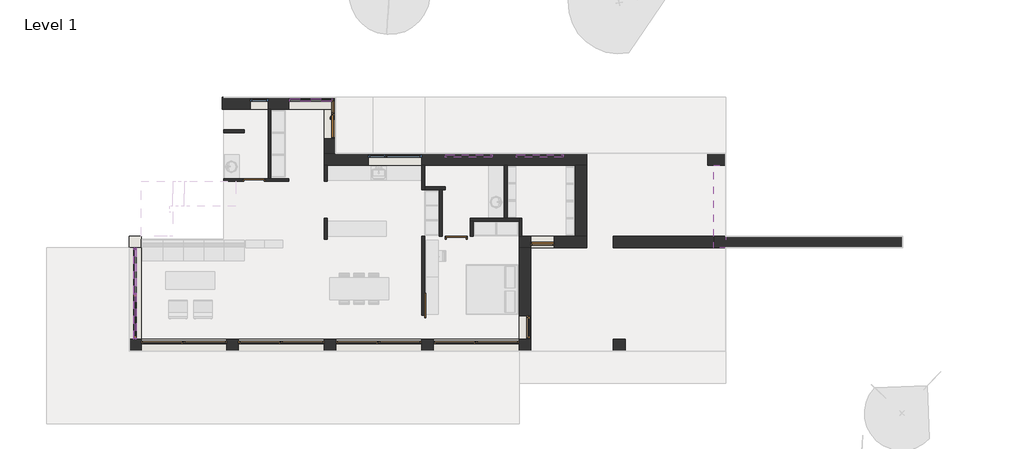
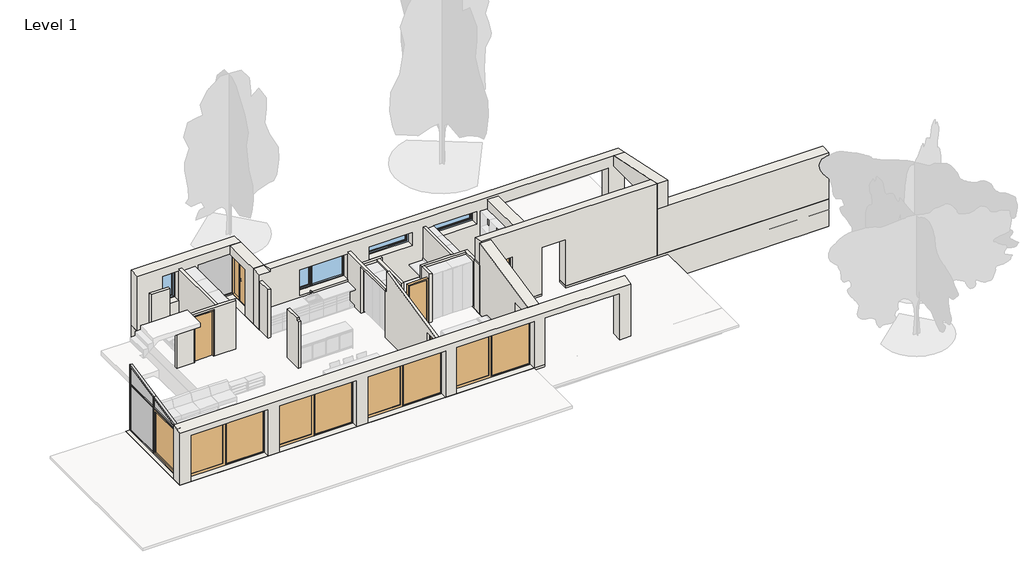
# One storey, part 1 of 2: 31 walls, 16 members, 11 doors, 5 plates, 4 windows.
"""IFC4 building model written with IfcOpenShell, lengths in millimetres."""

from ifc_helpers import new_model, si_unit, frame, origin, origin_with_axes, place, context, project, spatial, polyline, outline, extrude, faceted_brep, transform, mapped, element, save
from components import door_1560x2200_mm_08e78651, cw_ext_sliding_door_glass_cw_ext_sliding_door_glass_fc66a621, ext_single_flush_960x2200_mm_918893a4, ext_single_flush_out_glass_960x2200_mm_15830432, ext_sliding_door_window_assembly_glass_3480x2200_mm_6c81b4e4, int_single_flush_900x2200_mm_58b118df, int_single_flush_900x2200_mm_8e8544e1, int_sliding_door_on_wall_m9_x22_8b50374d, rectangular_mullion_exterior_115x115mm_a364345c, rectangular_mullion_exterior_50x115mm_2cea3e43, rectangular_mullion_exterior_50x115mm_d26d7a7f, rectangular_mullion_exterior_50x115mm_66d0e140, rectangular_mullion_exterior_50x115mm_0bbc0ca7, rectangular_mullion_exterior_50x115mm_4f10aaa5, rectangular_mullion_exterior_50x115mm_637f70d5, rectangular_mullion_exterior_50x115mm_56454b0a, rectangular_mullion_exterior_50x115mm_14035550, rectangular_mullion_exterior_50x115mm_69c7e964, rectangular_mullion_exterior_50x115mm_8fb64012, empty_system_panel_empty_d53b2e3b, system_panel_exterior_glass_22mm_2c8f2951, system_panel_exterior_glass_22mm_213b490c, system_panel_exterior_glass_22mm_7220da71, system_panel_exterior_glass_22mm_7fe7f60a, single_light_720x1400_mm_b30d6d94, single_light_top_hung_1920x600_mm_50622a2d, window_assembly_individual_2160x1200_mm_64654f8e

model = new_model("IFC4")

# Units and contexts
model_context = context("Model", 3, world=origin())
ifc_project = project(units=[si_unit("LENGTHUNIT", "METRE", prefix="MILLI")], contexts=[model_context])

# Site, building, storey
site = spatial("IfcSite", under=ifc_project)
building = spatial("IfcBuilding", under=site)
storey = spatial("IfcBuildingStorey", under=building, Name="Level 1", Elevation=0.0)

# Doors
placement = place(None, origin())
door_1560x2200_mm_shape = door_1560x2200_mm_08e78651(model_context)
element("IfcDoor", 1, ObjectType="Ext. Door inw. Window Assembly : 1560x2200 mm", at=placement, inside=storey, context=model_context, shape_type="MappedRepresentation", body=[
    mapped(door_1560x2200_mm_shape, transform((12120.0, 9060.0, 0.0), x_axis=(0.0, -1.0, 0.0), y_axis=(1.0, 0.0, 0.0), z_axis=(0.0, 0.0, 1.0))),
])
cw_ext_sliding_door_glass_cw_ext_sliding_door_glass_shape = cw_ext_sliding_door_glass_cw_ext_sliding_door_glass_fc66a621(model_context)
element("IfcDoor", 2, ObjectType="CW Ext. Sliding Door - Glass : CW Ext. Sliding Door - Glass", at=placement, inside=storey, context=model_context, shape_type="MappedRepresentation", body=[
    mapped(cw_ext_sliding_door_glass_cw_ext_sliding_door_glass_shape, transform((4140.0, 1062.5, 50.0), x_axis=(0.0, 1.0, 0.0), y_axis=(-1.0, 0.0, 0.0), z_axis=(0.0, 0.0, 1.0))),
])
ext_single_flush_960x2200_mm_shape = ext_single_flush_960x2200_mm_918893a4(model_context)
element("IfcDoor", 3, ObjectType="Ext. Single-Flush : 960x2200 mm", at=placement, inside=storey, context=model_context, shape_type="MappedRepresentation", body=[
    mapped(ext_single_flush_960x2200_mm_shape, transform((20760.0, 4080.0, 0.0), x_axis=(-1.0, 0.0, 0.0), y_axis=(0.0, -1.0, 0.0), z_axis=(0.0, 0.0, 1.0))),
])
ext_single_flush_out_glass_960x2200_mm_shape = ext_single_flush_out_glass_960x2200_mm_15830432(model_context)
element("IfcDoor", 4, ObjectType="Ext. Single-Flush out - Glass : 960x2200 mm", at=placement, inside=storey, context=model_context, shape_type="MappedRepresentation", body=[
    mapped(ext_single_flush_out_glass_960x2200_mm_shape, transform((20040.0, 600.0, 0.0), x_axis=(0.0, -1.0, 0.0), y_axis=(1.0, 0.0, 0.0), z_axis=(0.0, 0.0, 1.0))),
])
ext_sliding_door_window_assembly_glass_3480x2200_mm_shape = ext_sliding_door_window_assembly_glass_3480x2200_mm_6c81b4e4(model_context)
element("IfcDoor", 5, ObjectType="Ext. Sliding Door Window Assembly - Glass : 3480x2200 mm", at=placement, inside=storey, context=model_context, shape_type="MappedRepresentation", body=[
    mapped(ext_sliding_door_window_assembly_glass_3480x2200_mm_shape, transform((10140.0, -120.0, 0.0), x_axis=(-1.0, 0.0, 0.0), y_axis=(0.0, -1.0, 0.0), z_axis=(0.0, 0.0, 1.0))),
])
element("IfcDoor", 6, ObjectType="Ext. Sliding Door Window Assembly - Glass : 3480x2200 mm", at=placement, inside=storey, context=model_context, shape_type="MappedRepresentation", body=[
    mapped(ext_sliding_door_window_assembly_glass_3480x2200_mm_shape, transform((6180.0, -120.0, 0.0), x_axis=(-1.0, 0.0, 0.0), y_axis=(0.0, -1.0, 0.0), z_axis=(0.0, 0.0, 1.0))),
])
element("IfcDoor", 7, ObjectType="Ext. Sliding Door Window Assembly - Glass : 3480x2200 mm", at=placement, inside=storey, context=model_context, shape_type="MappedRepresentation", body=[
    mapped(ext_sliding_door_window_assembly_glass_3480x2200_mm_shape, transform((14100.0, -120.0, 0.0), x_axis=(-1.0, 0.0, 0.0), y_axis=(0.0, -1.0, 0.0), z_axis=(0.0, 0.0, 1.0))),
])
element("IfcDoor", 8, ObjectType="Ext. Sliding Door Window Assembly - Glass : 3480x2200 mm", at=placement, inside=storey, context=model_context, shape_type="MappedRepresentation", body=[
    mapped(ext_sliding_door_window_assembly_glass_3480x2200_mm_shape, transform((18060.0, -120.0, 0.0), x_axis=(-1.0, 0.0, 0.0), y_axis=(0.0, -1.0, 0.0), z_axis=(0.0, 0.0, 1.0))),
])
int_single_flush_900x2200_mm_shape = int_single_flush_900x2200_mm_58b118df(model_context)
element("IfcDoor", 9, ObjectType="Int. Single-Flush : 900x2200 mm", at=placement, inside=storey, context=model_context, shape_type="MappedRepresentation", body=[
    mapped(int_single_flush_900x2200_mm_shape, transform((9030.0, 6600.0, 0.0), x_axis=(1.0, 0.0, 0.0), y_axis=(0.0, 1.0, 0.0), z_axis=(0.0, 0.0, 1.0))),
])
int_single_flush_900x2200_mm_2_shape = int_single_flush_900x2200_mm_8e8544e1(model_context)
element("IfcDoor", 10, ObjectType="Int. Single-Flush : 900x2200 mm", at=placement, inside=storey, context=model_context, shape_type="MappedRepresentation", body=[
    mapped(int_single_flush_900x2200_mm_2_shape, transform((17250.0, 4260.0, 0.0), x_axis=(-1.0, 0.0, 0.0), y_axis=(0.0, -1.0, 0.0), z_axis=(0.0, 0.0, 1.0))),
])
int_sliding_door_on_wall_m9_x22_shape = int_sliding_door_on_wall_m9_x22_8b50374d(model_context)
element("IfcDoor", 11, ObjectType="Int. Sliding Door on wall : M9 x22", at=placement, inside=storey, context=model_context, shape_type="MappedRepresentation", body=[
    mapped(int_sliding_door_on_wall_m9_x22_shape, transform((15850.0, 624.0, 0.0), x_axis=(0.0, -1.0, 0.0), y_axis=(1.0, 0.0, 0.0), z_axis=(0.0, 0.0, 1.0))),
])

# Members
rectangular_mullion_exterior_115x115mm_shape = rectangular_mullion_exterior_115x115mm_a364345c(model_context)
element("IfcMember", 12, ObjectType="Rectangular Mullion : Exterior - 115x115mm", at=placement, inside=storey, context=model_context, shape_type="MappedRepresentation", body=[
    mapped(rectangular_mullion_exterior_115x115mm_shape, transform((12252.5, 9910.0, 0.0), x_axis=(1.0, 0.0, 0.0), y_axis=(0.0, -1.0, 0.0), z_axis=(0.0, 0.0, -1.0))),
])
rectangular_mullion_exterior_50x115mm_shape = rectangular_mullion_exterior_50x115mm_2cea3e43(model_context)
element("IfcMember", 13, ObjectType="Rectangular Mullion : Exterior - 50x115mm", at=placement, inside=storey, context=model_context, shape_type="MappedRepresentation", body=[
    mapped(rectangular_mullion_exterior_50x115mm_shape, transform((4140.0, 3840.0, 0.0), x_axis=(0.0, 1.0, 0.0), y_axis=(1.0, 0.0, 0.0), z_axis=(0.0, 0.0, -1.0))),
])
element("IfcMember", 14, ObjectType="Rectangular Mullion : Exterior - 50x115mm", at=placement, inside=storey, context=model_context, shape_type="MappedRepresentation", body=[
    mapped(rectangular_mullion_exterior_50x115mm_shape, transform((4140.0, 120.0, 2200.0), x_axis=(0.0, -1.0, 0.0), y_axis=(1.0, 0.0, 0.0), z_axis=(0.0, 0.0, 1.0))),
])
rectangular_mullion_exterior_50x115mm_2_shape = rectangular_mullion_exterior_50x115mm_d26d7a7f(model_context)
element("IfcMember", 15, ObjectType="Rectangular Mullion : Exterior - 50x115mm", at=placement, inside=storey, context=model_context, shape_type="MappedRepresentation", body=[
    mapped(rectangular_mullion_exterior_50x115mm_2_shape, transform((4140.0, 1980.0, 50.0), x_axis=(0.0, 1.0, 0.0), y_axis=(1.0, 0.0, 0.0), z_axis=(0.0, 0.0, -1.0))),
])
element("IfcMember", 16, ObjectType="Rectangular Mullion : Exterior - 50x115mm", at=placement, inside=storey, context=model_context, shape_type="MappedRepresentation", body=[
    mapped(rectangular_mullion_exterior_50x115mm_shape, transform((10440.0, 9910.0, 2200.0), x_axis=(-1.0, 0.0, 0.0), y_axis=(0.0, -1.0, 0.0), z_axis=(0.0, 0.0, 1.0))),
])
rectangular_mullion_exterior_50x115mm_3_shape = rectangular_mullion_exterior_50x115mm_66d0e140(model_context)
element("IfcMember", 17, ObjectType="Rectangular Mullion : Exterior - 50x115mm", at=placement, inside=storey, context=model_context, shape_type="MappedRepresentation", body=[
    mapped(rectangular_mullion_exterior_50x115mm_3_shape, transform((12195.0, 9910.0, 2200.0), x_axis=(0.0, 0.0, 1.0), y_axis=(0.0, -1.0, 0.0), z_axis=(1.0, 0.0, 0.0))),
])
element("IfcMember", 18, ObjectType="Rectangular Mullion : Exterior - 50x115mm", at=placement, inside=storey, context=model_context, shape_type="MappedRepresentation", body=[
    mapped(rectangular_mullion_exterior_50x115mm_3_shape, transform((10490.0, 9910.0, 0.0), x_axis=(0.0, 0.0, -1.0), y_axis=(0.0, -1.0, 0.0), z_axis=(-1.0, 0.0, 0.0))),
])
rectangular_mullion_exterior_50x115mm_4_shape = rectangular_mullion_exterior_50x115mm_0bbc0ca7(model_context)
element("IfcMember", 19, ObjectType="Rectangular Mullion : Exterior - 50x115mm", at=placement, inside=storey, context=model_context, shape_type="MappedRepresentation", body=[
    mapped(rectangular_mullion_exterior_50x115mm_4_shape, transform((4140.0, 1980.0, 0.0), x_axis=(0.0, 0.0, -1.0), y_axis=(1.0, 0.0, 0.0), z_axis=(0.0, -1.0, 0.0))),
])
element("IfcMember", 20, ObjectType="Rectangular Mullion : Exterior - 50x115mm", at=placement, inside=storey, context=model_context, shape_type="MappedRepresentation", body=[
    mapped(rectangular_mullion_exterior_50x115mm_4_shape, transform((4140.0, 170.0, 0.0), x_axis=(0.0, 0.0, -1.0), y_axis=(1.0, 0.0, 0.0), z_axis=(0.0, -1.0, 0.0))),
])
rectangular_mullion_exterior_50x115mm_5_shape = rectangular_mullion_exterior_50x115mm_4f10aaa5(model_context)
element("IfcMember", 21, ObjectType="Rectangular Mullion : Exterior - 50x115mm", at=placement, inside=storey, context=model_context, shape_type="MappedRepresentation", body=[
    mapped(rectangular_mullion_exterior_50x115mm_5_shape, transform((4140.0, 1955.0, 2200.0), x_axis=(0.0, 0.0, 1.0), y_axis=(1.0, 0.0, 0.0), z_axis=(0.0, 1.0, 0.0))),
])
element("IfcMember", 22, ObjectType="Rectangular Mullion : Exterior - 50x115mm", at=placement, inside=storey, context=model_context, shape_type="MappedRepresentation", body=[
    mapped(rectangular_mullion_exterior_50x115mm_5_shape, transform((4140.0, 3790.0, 2200.0), x_axis=(0.0, 0.0, 1.0), y_axis=(1.0, 0.0, 0.0), z_axis=(0.0, 1.0, 0.0))),
])
rectangular_mullion_exterior_50x115mm_6_shape = rectangular_mullion_exterior_50x115mm_637f70d5(model_context)
element("IfcMember", 23, ObjectType="Rectangular Mullion : Exterior - 50x115mm", at=placement, inside=storey, context=model_context, shape_type="MappedRepresentation", body=[
    mapped(rectangular_mullion_exterior_50x115mm_6_shape, transform((4140.0, 1980.0, 2200.0), x_axis=(0.0, 1.0, 0.0), y_axis=(1.0, 0.0, 0.0), z_axis=(0.0, 0.0, -1.0))),
])
rectangular_mullion_exterior_50x115mm_7_shape = rectangular_mullion_exterior_50x115mm_56454b0a(model_context)
element("IfcMember", 24, ObjectType="Rectangular Mullion : Exterior - 50x115mm", at=placement, inside=storey, context=model_context, shape_type="MappedRepresentation", body=[
    mapped(rectangular_mullion_exterior_50x115mm_7_shape, transform((4140.0, 1980.0, 2711.8424549), x_axis=(0.0, -0.20791169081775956, 0.9781476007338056), y_axis=(1.0, 0.0, 0.0), z_axis=(0.0, 0.9781476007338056, 0.20791169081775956))),
])
rectangular_mullion_exterior_50x115mm_8_shape = rectangular_mullion_exterior_50x115mm_14035550(model_context)
element("IfcMember", 25, ObjectType="Rectangular Mullion : Exterior - 50x115mm", at=placement, inside=storey, context=model_context, shape_type="MappedRepresentation", body=[
    mapped(rectangular_mullion_exterior_50x115mm_8_shape, transform((4140.0, 3840.0, 3107.1976596), x_axis=(0.0, -0.2079116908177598, 0.9781476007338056), y_axis=(1.0, 0.0, 0.0), z_axis=(0.0, 0.9781476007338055, 0.20791169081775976))),
])
rectangular_mullion_exterior_50x115mm_9_shape = rectangular_mullion_exterior_50x115mm_69c7e964(model_context)
element("IfcMember", 26, ObjectType="Rectangular Mullion : Exterior - 50x115mm", at=placement, inside=storey, context=model_context, shape_type="MappedRepresentation", body=[
    mapped(rectangular_mullion_exterior_50x115mm_9_shape, transform((4140.0, 120.0, 2316.4872502), x_axis=(0.0, -1.0, 0.0), y_axis=(1.0, 0.0, 0.0), z_axis=(0.0, 0.0, 1.0))),
])
rectangular_mullion_exterior_50x115mm_10_shape = rectangular_mullion_exterior_50x115mm_8fb64012(model_context)
element("IfcMember", 27, ObjectType="Rectangular Mullion : Exterior - 50x115mm", at=placement, inside=storey, context=model_context, shape_type="MappedRepresentation", body=[
    mapped(rectangular_mullion_exterior_50x115mm_10_shape, transform((4140.0, 3840.0, 2200.0), x_axis=(0.0, 1.0, 0.0), y_axis=(1.0, 0.0, 0.0), z_axis=(0.0, 0.0, -1.0))),
])

# Plates
empty_system_panel_empty_shape = empty_system_panel_empty_d53b2e3b(model_context)
element("IfcPlate", 28, ObjectType="Empty System Panel : Empty", at=placement, inside=storey, context=model_context, shape_type="MappedRepresentation", body=[
    mapped(empty_system_panel_empty_shape, transform((12335.0, 9910.0, 0.0), x_axis=(1.0, 0.0, 0.0), y_axis=(0.0, 1.0, 0.0), z_axis=(0.0, 0.0, 1.0))),
])
system_panel_exterior_glass_22mm_shape = system_panel_exterior_glass_22mm_2c8f2951(model_context)
element("IfcPlate", 29, ObjectType="System Panel : Exterior - Glass 22mm", at=placement, inside=storey, context=model_context, shape_type="MappedRepresentation", body=[
    mapped(system_panel_exterior_glass_22mm_shape, transform((11342.5, 9910.0, 50.0), x_axis=(1.0, 0.0, 0.0), y_axis=(0.0, 1.0, 0.0), z_axis=(0.0, 0.0, 1.0))),
])
system_panel_exterior_glass_22mm_2_shape = system_panel_exterior_glass_22mm_213b490c(model_context)
element("IfcPlate", 30, ObjectType="System Panel : Exterior - Glass 22mm", at=placement, inside=storey, context=model_context, shape_type="MappedRepresentation", body=[
    mapped(system_panel_exterior_glass_22mm_2_shape, transform((4140.0, 1062.5, 2225.0), x_axis=(0.0, 1.0, 0.0), y_axis=(-1.0, 0.0, 0.0), z_axis=(0.0, 0.0, 1.0))),
])
system_panel_exterior_glass_22mm_3_shape = system_panel_exterior_glass_22mm_7220da71(model_context)
element("IfcPlate", 31, ObjectType="System Panel : Exterior - Glass 22mm", at=placement, inside=storey, context=model_context, shape_type="MappedRepresentation", body=[
    mapped(system_panel_exterior_glass_22mm_3_shape, transform((4140.0, 2897.5, 50.0), x_axis=(0.0, 1.0, 0.0), y_axis=(-1.0, 0.0, 0.0), z_axis=(0.0, 0.0, 1.0))),
])
system_panel_exterior_glass_22mm_4_shape = system_panel_exterior_glass_22mm_7fe7f60a(model_context)
element("IfcPlate", 32, ObjectType="System Panel : Exterior - Glass 22mm", at=placement, inside=storey, context=model_context, shape_type="MappedRepresentation", body=[
    mapped(system_panel_exterior_glass_22mm_4_shape, transform((4140.0, 2897.5, 2225.0), x_axis=(0.0, 1.0, 0.0), y_axis=(-1.0, 0.0, 0.0), z_axis=(0.0, 0.0, 1.0))),
])

# Walls
element("IfcWall", 33, ObjectType="Generic - 120mm (Interior)", at=placement, inside=storey, context=model_context, shape_type="Brep", body=[
    faceted_brep([(9720.0, 6660.0, 0.0), (9720.0, 9480.0, 0.0), (9720.0, 9480.0, 2300.0), (9720.0, 6660.0, 2300.0), (9600.0, 6660.0, 0.0), (9600.0, 6660.0, 2300.0), (9600.0, 9480.0, 2300.0), (9600.0, 9480.0, 2200.0), (9600.0, 9480.0, 800.0), (9600.0, 9480.0, 0.0)], [[[0, 1, 2, 3]], [[4, 5, 6, 7, 8, 9]], [[1, 0, 4, 9]], [[2, 1, 9, 8, 7, 6]], [[0, 3, 5, 4]], [[3, 2, 6, 5]]]),
])
element("IfcWall", 34, ObjectType="Generic - 120mm (Interior)", at=placement, inside=storey, context=model_context, shape_type="Brep", body=[
    faceted_brep([(15960.0, 7200.0, 0.0), (15960.0, 7200.0, 2300.0), (15960.0, 6320.0, 2300.0), (15960.0, 6200.0, 2300.0), (15960.0, 4320.0, 2300.0), (15960.0, 4320.0, 2200.0), (15960.0, 6200.0, 2200.0), (15960.0, 6200.0, 0.0), (15960.0, 6320.0, 0.0), (15960.0, 120.0, 2212.0), (15960.0, 1104.0, 2212.0), (15960.0, 1104.0, 0.0), (15960.0, 4200.0, 0.0), (15960.0, 4320.0, 0.0), (15960.0, 4200.0, 2200.0), (15960.0, 4200.0, 3183.7180218), (15960.0, 120.0, 2316.4872502), (15840.0, 7200.0, 2300.0), (15840.0, 7200.0, 2200.0), (15840.0, 7200.0, 1000.0), (15840.0, 7200.0, 0.0), (15840.0, 6200.0, 0.0), (15840.0, 6200.0, 2200.0), (15840.0, 4320.0, 2200.0), (15840.0, 4320.0, 2300.0), (15840.0, 4320.0, 0.0), (15840.0, 1104.0, 0.0), (15840.0, 1104.0, 2212.0), (15840.0, 120.0, 2212.0), (15840.0, 120.0, 2316.4872502), (15840.0, 4200.0, 3183.7180218), (15840.0, 4200.0, 2200.0)], [[[0, 1, 2, 3, 4, 5, 6, 7, 8]], [[9, 10, 11, 12, 13, 5, 14, 15, 16]], [[17, 18, 19, 20, 21, 22, 23, 24]], [[25, 26, 27, 28, 29, 30, 31, 23]], [[1, 0, 20, 19, 18, 17]], [[27, 10, 9, 28]], [[10, 27, 26, 11]], [[9, 16, 29, 28]], [[23, 5, 4, 24]], [[5, 23, 31, 14]], [[26, 25, 13, 12, 11]], [[6, 5, 23, 22]], [[0, 8, 7, 21, 20]], [[5, 13, 25, 23]], [[7, 6, 22, 21]], [[4, 3, 2, 1, 17, 24]], [[30, 15, 14, 31]], [[16, 15, 30, 29]]]),
])
element("IfcWall", 35, ObjectType="Generic - 120mm (Interior)", at=placement, inside=storey, context=model_context, shape_type="Brep", body=[
    faceted_brep([(19800.0, 5040.0, 0.0), (19800.0, 4920.0, 0.0), (19800.0, 4320.0, 0.0), (19800.0, 4320.0, 2300.0), (19800.0, 4920.0, 2300.0), (19800.0, 5040.0, 2300.0), (19920.0, 5040.0, 0.0), (19920.0, 5040.0, 2300.0), (19920.0, 4320.0, 2300.0), (19920.0, 4320.0, 0.0), (19860.0, 4320.0, 2300.0)], [[[0, 1, 2, 3, 4, 5]], [[6, 7, 8, 9]], [[2, 1, 0, 6, 9]], [[3, 2, 9, 8, 10]], [[0, 5, 7, 6]], [[5, 4, 3, 10, 8, 7]]]),
])
element("IfcWall", 36, ObjectType="Generic - 120mm (Interior)", at=placement, inside=storey, context=model_context, shape_type="SweptSolid", body=[
    extrude(outline(polyline([(19320.0, 7200.0), (19320.0, 5040.0), (19200.0, 5040.0), (19200.0, 7200.0), (19320.0, 7200.0)])), origin_with_axes(), (0.0, 0.0, 1.0), 2300.0),
])
element("IfcWall", 37, ObjectType="Generic - 120mm (Interior)", at=placement, inside=storey, context=model_context, shape_type="SweptSolid", body=[
    extrude(outline(polyline([(8640.0, 8520.0), (7800.0, 8520.0), (7800.0, 8640.0), (8640.0, 8640.0), (8640.0, 8520.0)])), origin_with_axes(), (0.0, 0.0, 1.0), 2300.0),
])
element("IfcWall", 38, ObjectType="Generic - 120mm (Interior)", at=placement, inside=storey, context=model_context, shape_type="SweptSolid", body=[
    extrude(outline(polyline([(11880.0, 6540.0), (11880.0, 7200.0), (12000.0, 7200.0), (12000.0, 6540.0), (11880.0, 6540.0)])), origin_with_axes(), (0.0, 0.0, 1.0), 2300.0),
])
element("IfcWall", 39, ObjectType="Generic - 120mm (Interior)", at=placement, inside=storey, context=model_context, shape_type="Brep", body=[
    faceted_brep([(10440.0, 6540.0, 0.0), (10440.0, 6540.0, 2300.0), (8280.0, 6540.0, 2300.0), (7800.0, 6540.0, 2300.0), (7800.0, 6540.0, 2000.0), (7800.0, 6540.0, 1700.0), (7800.0, 6540.0, 0.0), (8580.0, 6540.0, 0.0), (8580.0, 6540.0, 2200.0), (9480.0, 6540.0, 2200.0), (9480.0, 6540.0, 0.0), (10440.0, 6660.0, 2300.0), (10440.0, 6660.0, 0.0), (9720.0, 6660.0, 0.0), (9600.0, 6660.0, 0.0), (9480.0, 6660.0, 0.0), (9480.0, 6660.0, 2200.0), (8580.0, 6660.0, 2200.0), (8580.0, 6660.0, 0.0), (7800.0, 6660.0, 0.0), (7800.0, 6660.0, 1700.0), (7800.0, 6660.0, 2000.0), (7800.0, 6660.0, 2300.0), (9600.0, 6660.0, 2300.0), (9720.0, 6660.0, 2300.0)], [[[0, 1, 2, 3, 4, 5, 6, 7, 8, 9, 10]], [[11, 12, 13, 14, 15, 16, 17, 18, 19, 20, 21, 22, 23, 24]], [[12, 0, 10, 15, 14, 13]], [[6, 19, 18, 7]], [[1, 0, 12, 11]], [[9, 16, 15, 10]], [[16, 9, 8, 17]], [[17, 8, 7, 18]], [[11, 24, 23, 22, 3, 2, 1]], [[19, 6, 5, 4, 3, 22, 21, 20]]]),
])
element("IfcWall", 40, ObjectType="Generic - 120mm (Interior)", at=placement, inside=storey, context=model_context, shape_type="Brep", body=[
    faceted_brep([(11880.0, 5040.0, 0.0), (11880.0, 4200.0, 0.0), (11880.0, 4200.0, 2200.0), (11880.0, 4320.0, 2200.0), (11880.0, 4320.0, 2300.0), (11880.0, 5040.0, 2300.0), (12000.0, 5040.0, 0.0), (12000.0, 5040.0, 2300.0), (12000.0, 4320.0, 2300.0), (12000.0, 4320.0, 2200.0), (12000.0, 4200.0, 2200.0), (12000.0, 4200.0, 0.0), (12000.0, 4320.0, 0.0)], [[[0, 1, 2, 3, 4, 5]], [[6, 7, 8, 9, 10, 11, 12]], [[1, 0, 6, 12, 11]], [[0, 5, 7, 6]], [[9, 3, 2, 10]], [[2, 1, 11, 10]], [[4, 3, 9, 8]], [[5, 4, 8, 7]]]),
])
element("IfcWall", 41, ObjectType="Generic - 120mm (Interior)", at=placement, inside=storey, context=model_context, shape_type="Brep", body=[
    faceted_brep([(19800.0, 5040.0, 0.0), (19320.0, 5040.0, 0.0), (19200.0, 5040.0, 0.0), (17820.0, 5040.0, 0.0), (17820.0, 5040.0, 2300.0), (19200.0, 5040.0, 2300.0), (19320.0, 5040.0, 2300.0), (19800.0, 5040.0, 2300.0), (19800.0, 4920.0, 0.0), (19800.0, 4920.0, 2300.0), (17940.0, 4920.0, 2300.0), (17820.0, 4920.0, 2300.0), (17820.0, 4920.0, 0.0), (17940.0, 4920.0, 0.0)], [[[0, 1, 2, 3, 4, 5, 6, 7]], [[8, 9, 10, 11, 12, 13]], [[3, 2, 1, 0, 8, 13, 12]], [[0, 7, 9, 8]], [[4, 3, 12, 11]], [[7, 6, 5, 4, 11, 10, 9]]]),
])
element("IfcWall", 42, ObjectType="Generic - 120mm (Interior)", at=placement, inside=storey, context=model_context, shape_type="Brep", body=[
    faceted_brep([(17820.0, 4920.0, 0.0), (17820.0, 4320.0, 0.0), (17820.0, 4320.0, 2300.0), (17820.0, 4920.0, 2300.0), (17940.0, 4920.0, 0.0), (17940.0, 4920.0, 2300.0), (17940.0, 4320.0, 2300.0), (17940.0, 4320.0, 2200.0), (17940.0, 4320.0, 0.0)], [[[0, 1, 2, 3]], [[4, 5, 6, 7, 8]], [[1, 0, 4, 8]], [[0, 3, 5, 4]], [[1, 8, 7, 6, 2]], [[3, 2, 6, 5]]]),
])
element("IfcWall", 43, ObjectType="Generic - 120mm (Interior)", at=placement, inside=storey, context=model_context, shape_type="SweptSolid", body=[
    extrude(outline(polyline([(16680.0, 6200.0), (16680.0, 4320.0), (16560.0, 4320.0), (16560.0, 6200.0), (16680.0, 6200.0)])), origin_with_axes(), (0.0, 0.0, 1.0), 2300.0),
])
element("IfcWall", 44, ObjectType="Generic - 120mm (Interior)", at=placement, inside=storey, context=model_context, shape_type="Brep", body=[
    faceted_brep([(15960.0, 6200.0, 2300.0), (15960.0, 6200.0, 2200.0), (15960.0, 6200.0, 0.0), (16560.0, 6200.0, 0.0), (16680.0, 6200.0, 0.0), (16800.0, 6200.0, 0.0), (16800.0, 6200.0, 2300.0), (16680.0, 6200.0, 2300.0), (16560.0, 6200.0, 2300.0), (15960.0, 6320.0, 0.0), (15960.0, 6320.0, 2300.0), (16800.0, 6320.0, 2300.0), (16800.0, 6320.0, 0.0)], [[[0, 1, 2, 3, 4, 5, 6, 7, 8]], [[9, 10, 11, 12]], [[5, 4, 3, 2, 9, 12]], [[6, 5, 12, 11]], [[0, 10, 9, 2, 1]], [[0, 8, 7, 6, 11, 10]]]),
])
element("IfcWall", 45, ObjectType="Generic - 480mm (Exterior)", at=placement, inside=storey, context=model_context, shape_type="Brep", body=[
    faceted_brep([(11880.0, 7680.0, 2600.0), (11880.0, 8280.0, 2600.0), (11880.0, 9480.0, 2600.0), (11880.0, 9480.0, 2200.0), (11880.0, 8280.0, 2200.0), (11880.0, 8280.0, 0.0), (11880.0, 7680.0, 0.0), (12360.0, 9480.0, 2600.0), (12360.0, 8280.0, 2600.0), (12360.0, 7680.0, 2600.0), (12360.0, 7680.0, 0.0), (12360.0, 8280.0, 0.0), (12360.0, 8280.0, 2200.0), (12360.0, 9480.0, 2200.0)], [[[0, 1, 2, 3, 4, 5, 6]], [[7, 8, 9, 10, 11, 12, 13]], [[10, 6, 5, 11]], [[2, 1, 0, 9, 8, 7]], [[2, 7, 13, 3]], [[0, 6, 10, 9]], [[12, 4, 3, 13]], [[4, 12, 11, 5]]]),
])
element("IfcWall", 46, ObjectType="Generic - 480mm (Exterior)", at=placement, inside=storey, context=model_context, shape_type="Brep", body=[
    faceted_brep([(22080.0, 7200.0, 2600.0), (22080.0, 7200.0, 0.0), (22080.0, 4320.0, 0.0), (22080.0, 4320.0, 2600.0), (22560.0, 7200.0, 0.0), (22560.0, 7200.0, 2200.0), (22560.0, 7200.0, 2600.0), (22560.0, 4320.0, 2600.0), (22560.0, 4320.0, 2200.0), (22560.0, 4320.0, 0.0)], [[[0, 1, 2, 3]], [[4, 5, 6, 7, 8, 9]], [[2, 1, 4, 9]], [[0, 3, 7, 6]], [[0, 6, 5, 4, 1]], [[3, 2, 9, 8, 7]]]),
])
element("IfcWall", 47, ObjectType="Generic - 480mm (Exterior)", at=placement, inside=storey, context=model_context, shape_type="Brep", body=[
    faceted_brep([(19800.0, 3840.0, 3362.7828084), (19800.0, 3840.0, 2300.0), (19800.0, 3840.0, 0.0), (19800.0, 1080.0, 0.0), (19800.0, 1080.0, 2200.0), (19800.0, 120.0, 2200.0), (19800.0, 120.0, 2572.0723989), (20280.0, 3840.0, 0.0), (20280.0, 3840.0, 2200.0), (20280.0, 3840.0, 3362.7828084), (20280.0, 120.0, 2572.0723989), (20280.0, 120.0, 2200.0), (20280.0, 1080.0, 2200.0), (20280.0, 1080.0, 0.0)], [[[0, 1, 2, 3, 4, 5, 6]], [[7, 8, 9, 10, 11, 12, 13]], [[2, 7, 13, 3]], [[4, 12, 11, 5]], [[12, 4, 3, 13]], [[2, 1, 0, 9, 8, 7]], [[10, 6, 5, 11]], [[0, 6, 10, 9]]]),
])
element("IfcWall", 48, ObjectType="Generic - 480mm (Exterior)", at=placement, inside=storey, context=model_context, shape_type="Brep", body=[
    faceted_brep([(22560.0, 7200.0, 2200.0), (27480.0, 7200.0, 2200.0), (27480.0, 7200.0, 0.0), (28200.0, 7200.0, 0.0), (28200.0, 7200.0, 2200.0), (28200.0, 7200.0, 2702.0271496), (27720.0, 7200.0, 2702.0271496), (12360.0, 7200.0, 2702.0271496), (12360.0, 7200.0, 2600.0), (11880.0, 7200.0, 2600.0), (11880.0, 7200.0, 2300.0), (11880.0, 7200.0, 0.0), (12000.0, 7200.0, 0.0), (15840.0, 7200.0, 0.0), (15960.0, 7200.0, 0.0), (19200.0, 7200.0, 0.0), (19320.0, 7200.0, 0.0), (22080.0, 7200.0, 0.0), (22560.0, 7200.0, 0.0), (16800.0, 7200.0, 1600.0), (16800.0, 7200.0, 2200.0), (18720.0, 7200.0, 2200.0), (18720.0, 7200.0, 1600.0), (19680.0, 7200.0, 1600.0), (19680.0, 7200.0, 2200.0), (21600.0, 7200.0, 2200.0), (21600.0, 7200.0, 1600.0), (15840.0, 7200.0, 2200.0), (15840.0, 7200.0, 1000.0), (13680.0, 7200.0, 1000.0), (13680.0, 7200.0, 2200.0), (27480.0, 7680.0, 2200.0), (22560.0, 7680.0, 2200.0), (22560.0, 7680.0, 0.0), (12360.0, 7680.0, 0.0), (11880.0, 7680.0, 0.0), (11880.0, 7680.0, 2600.0), (12360.0, 7680.0, 2600.0), (28200.0, 7680.0, 2600.0), (28200.0, 7680.0, 0.0), (27480.0, 7680.0, 0.0), (15840.0, 7680.0, 1000.0), (15840.0, 7680.0, 2200.0), (13680.0, 7680.0, 2200.0), (13680.0, 7680.0, 1000.0), (16800.0, 7680.0, 2200.0), (16800.0, 7680.0, 1600.0), (18720.0, 7680.0, 1600.0), (18720.0, 7680.0, 2200.0), (19680.0, 7680.0, 2200.0), (19680.0, 7680.0, 1600.0), (21600.0, 7680.0, 1600.0), (21600.0, 7680.0, 2200.0)], [[[0, 1, 2, 3, 4, 5, 6, 7, 8, 9, 10, 11, 12, 13, 14, 15, 16, 17, 18], [19, 20, 21, 22], [23, 24, 25, 26], [27, 28, 29, 30]], [[31, 32, 33, 34, 35, 36, 37, 38, 39, 40], [41, 42, 43, 44], [45, 46, 47, 48], [49, 50, 51, 52]], [[1, 0, 32, 31]], [[2, 1, 31, 40]], [[3, 2, 40, 39]], [[18, 17, 16, 15, 14, 13, 12, 11, 35, 34, 33]], [[0, 18, 33, 32]], [[41, 28, 27, 42]], [[42, 27, 30, 43]], [[43, 30, 29, 44]], [[28, 41, 44, 29]], [[19, 46, 45, 20]], [[20, 45, 48, 21]], [[21, 48, 47, 22]], [[46, 19, 22, 47]], [[23, 50, 49, 24]], [[24, 49, 52, 25]], [[25, 52, 51, 26]], [[50, 23, 26, 51]], [[5, 4, 3, 39, 38]], [[11, 10, 9, 36, 35]], [[36, 9, 8, 37]], [[37, 8, 7]], [[7, 6, 5, 38, 37]]]),
])
element("IfcWall", 49, ObjectType="Generic - 480mm (Exterior)", at=placement, inside=storey, context=model_context, shape_type="Brep", body=[
    faceted_brep([(27720.0, 7200.0, 2200.0), (27720.0, 4320.0, 2200.0), (27720.0, 3840.0, 2200.0), (27720.0, 3840.0, 3416.2171968), (27720.0, 4320.0, 3314.1900472), (27720.0, 7200.0, 2702.0271496), (28200.0, 7200.0, 2200.0), (28200.0, 7200.0, 2702.0271496), (28200.0, 3840.0, 3416.2171968), (28200.0, 3840.0, 2200.0)], [[[0, 1, 2, 3, 4, 5]], [[6, 7, 8, 9]], [[2, 1, 0, 6, 9]], [[0, 5, 7, 6]], [[3, 2, 9, 8]], [[5, 4, 3, 8, 7]]]),
])
element("IfcWall", 50, ObjectType="Generic - 480mm (Exterior)", at=placement, inside=storey, context=model_context, shape_type="Brep", body=[
    faceted_brep([(23640.0, 3840.0, 2200.0), (23640.0, 3840.0, 0.0), (27720.0, 3840.0, 0.0), (27720.0, 3840.0, 2200.0), (27720.0, 3840.0, 3416.2171968), (19860.0, 3840.0, 3416.2171968), (19860.0, 3840.0, 2300.0), (19800.0, 3840.0, 2300.0), (19800.0, 3840.0, 0.0), (20280.0, 3840.0, 0.0), (20280.0, 3840.0, 2200.0), (21240.0, 3840.0, 2200.0), (21240.0, 3840.0, 0.0), (22560.0, 3840.0, 0.0), (22560.0, 3840.0, 2200.0), (23640.0, 4320.0, 0.0), (23640.0, 4320.0, 2200.0), (22560.0, 4320.0, 2200.0), (22560.0, 4320.0, 0.0), (22080.0, 4320.0, 0.0), (21240.0, 4320.0, 0.0), (21240.0, 4320.0, 2200.0), (20280.0, 4320.0, 2200.0), (20280.0, 4320.0, 0.0), (19920.0, 4320.0, 0.0), (19800.0, 4320.0, 0.0), (19800.0, 4320.0, 2200.0), (19800.0, 4320.0, 2300.0), (19860.0, 4320.0, 2300.0), (19860.0, 4320.0, 3200.0), (19860.0, 4320.0, 3314.1900472), (27720.0, 4320.0, 3314.1900472), (27720.0, 4320.0, 2200.0), (27720.0, 4320.0, 0.0), (19860.0, 4200.0, 2300.0), (19800.0, 4200.0, 2300.0)], [[[0, 1, 2, 3, 4, 5, 6, 7, 8, 9, 10, 11, 12, 13, 14]], [[15, 16, 17, 18, 19, 20, 21, 22, 23, 24, 25, 26, 27, 28, 29, 30, 31, 32, 33]], [[2, 1, 15, 33]], [[8, 25, 24, 23, 9]], [[18, 13, 12, 20, 19]], [[22, 10, 9, 23]], [[10, 22, 21, 11]], [[11, 21, 20, 12]], [[0, 16, 15, 1]], [[16, 0, 14, 17]], [[17, 14, 13, 18]], [[4, 3, 2, 33, 32, 31]], [[6, 5, 30, 29, 28, 34]], [[6, 34, 28, 27, 35, 7]], [[25, 8, 7, 35, 27, 26]], [[5, 4, 31, 30]]]),
])
element("IfcWall", 51, ObjectType="Generic - 480mm (Exterior)", at=placement, inside=storey, context=model_context, shape_type="Brep", body=[
    faceted_brep([(27720.0, 3840.0, 0.0), (35400.0, 3840.0, 0.0), (35400.0, 3840.0, 2200.0), (28200.0, 3840.0, 2200.0), (27720.0, 3840.0, 2200.0), (27720.0, 4320.0, 0.0), (27720.0, 4320.0, 2200.0), (35400.0, 4320.0, 2200.0), (35400.0, 4320.0, 0.0)], [[[0, 1, 2, 3, 4]], [[5, 6, 7, 8]], [[1, 0, 5, 8]], [[2, 1, 8, 7]], [[4, 3, 2, 7, 6]], [[0, 4, 6, 5]]]),
])
element("IfcWall", 52, ObjectType="Generic - 480mm (Exterior)", at=placement, inside=storey, context=model_context, shape_type="Brep", body=[
    faceted_brep([(24120.0, 120.0, 0.0), (23640.0, 120.0, 0.0), (23640.0, 120.0, 2200.0), (20280.0, 120.0, 2200.0), (20280.0, 120.0, 0.0), (19800.0, 120.0, 0.0), (19800.0, 120.0, 2200.0), (16320.0, 120.0, 2200.0), (16320.0, 120.0, 0.0), (15840.0, 120.0, 0.0), (15840.0, 120.0, 2200.0), (12360.0, 120.0, 2200.0), (12360.0, 120.0, 0.0), (11880.0, 120.0, 0.0), (11880.0, 120.0, 2200.0), (8400.0, 120.0, 2200.0), (8400.0, 120.0, 0.0), (7920.0, 120.0, 0.0), (7920.0, 120.0, 2200.0), (4440.0, 120.0, 2200.0), (4440.0, 120.0, 0.0), (3960.0, 120.0, 0.0), (3960.0, 120.0, 2572.0723989), (19800.0, 120.0, 2572.0723989), (20280.0, 120.0, 2572.0723989), (24120.0, 120.0, 2572.0723989), (23640.0, -360.0, 0.0), (24120.0, -360.0, 0.0), (24120.0, -360.0, 2470.0452493), (3960.0, -360.0, 2470.0452493), (3960.0, -360.0, 0.0), (4440.0, -360.0, 0.0), (4440.0, -360.0, 2200.0), (7920.0, -360.0, 2200.0), (7920.0, -360.0, 0.0), (8400.0, -360.0, 0.0), (8400.0, -360.0, 2200.0), (11880.0, -360.0, 2200.0), (11880.0, -360.0, 0.0), (12360.0, -360.0, 0.0), (12360.0, -360.0, 2200.0), (15840.0, -360.0, 2200.0), (15840.0, -360.0, 0.0), (16320.0, -360.0, 0.0), (16320.0, -360.0, 2200.0), (19800.0, -360.0, 2200.0), (19800.0, -360.0, 0.0), (20280.0, -360.0, 0.0), (20280.0, -360.0, 2200.0), (23640.0, -360.0, 2200.0)], [[[0, 1, 2, 3, 4, 5, 6, 7, 8, 9, 10, 11, 12, 13, 14, 15, 16, 17, 18, 19, 20, 21, 22, 23, 24, 25]], [[26, 27, 28, 29, 30, 31, 32, 33, 34, 35, 36, 37, 38, 39, 40, 41, 42, 43, 44, 45, 46, 47, 48, 49]], [[15, 36, 35, 16]], [[36, 15, 14, 37]], [[37, 14, 13, 38]], [[19, 32, 31, 20]], [[32, 19, 18, 33]], [[33, 18, 17, 34]], [[11, 40, 39, 12]], [[40, 11, 10, 41]], [[41, 10, 9, 42]], [[7, 44, 43, 8]], [[44, 7, 6, 45]], [[45, 6, 5, 46]], [[1, 0, 27, 26]], [[22, 21, 30, 29]], [[0, 25, 28, 27]], [[2, 1, 26, 49]], [[3, 2, 49, 48]], [[30, 21, 20, 31]], [[16, 35, 34, 17]], [[38, 13, 12, 39]], [[42, 9, 8, 43]], [[4, 47, 46, 5]], [[4, 3, 48, 47]], [[25, 24, 23, 22, 29, 28]]]),
])
element("IfcWall", 53, ObjectType="Generic - 480mm (Exterior)", at=placement, inside=storey, context=model_context, shape_type="Brep", body=[
    faceted_brep([(12360.0, 9480.0, 2600.0), (11880.0, 9480.0, 2600.0), (7740.0, 9480.0, 2600.0), (7740.0, 9480.0, 1600.0), (7740.0, 9480.0, 0.0), (9600.0, 9480.0, 0.0), (9720.0, 9480.0, 0.0), (10440.0, 9480.0, 0.0), (10440.0, 9480.0, 2200.0), (11880.0, 9480.0, 2200.0), (12360.0, 9480.0, 2200.0), (9600.0, 9480.0, 2200.0), (9600.0, 9480.0, 800.0), (8880.0, 9480.0, 800.0), (8880.0, 9480.0, 2200.0), (7740.0, 9960.0, 2600.0), (12360.0, 9960.0, 2600.0), (12360.0, 9960.0, 2200.0), (10440.0, 9960.0, 2200.0), (10440.0, 9960.0, 0.0), (7740.0, 9960.0, 0.0), (7740.0, 9960.0, 1600.0), (9600.0, 9960.0, 800.0), (9600.0, 9960.0, 2200.0), (8880.0, 9960.0, 2200.0), (8880.0, 9960.0, 800.0), (12360.0, 9840.0, 2200.0)], [[[0, 1, 2, 3, 4, 5, 6, 7, 8, 9, 10], [11, 12, 13, 14]], [[15, 16, 17, 18, 19, 20, 21], [22, 23, 24, 25]], [[4, 20, 19, 7, 6, 5]], [[2, 1, 0, 16, 15]], [[16, 0, 10, 26, 17]], [[22, 12, 11, 23]], [[24, 14, 13, 25]], [[12, 22, 25, 13]], [[14, 24, 23, 11]], [[18, 8, 7, 19]], [[8, 18, 17, 26, 10, 9]], [[2, 15, 21, 20, 4, 3]]]),
])
element("IfcWall", 54, ObjectType="Generic - 480mm (Foundation)", at=placement, inside=storey, context=model_context, shape_type="Brep", body=[
    faceted_brep([(7740.0, 9480.0, 0.0), (7740.0, 9480.0, -600.0), (7740.0, 9480.0, -1300.0), (11880.0, 9480.0, -1300.0), (12360.0, 9480.0, -1300.0), (12360.0, 9480.0, 0.0), (11880.0, 9480.0, 0.0), (7740.0, 9960.0, -1300.0), (7740.0, 9960.0, -600.0), (7740.0, 9960.0, 0.0), (12360.0, 9960.0, 0.0), (12360.0, 9960.0, -1300.0)], [[[0, 1, 2, 3, 4, 5, 6]], [[7, 8, 9, 10, 11]], [[4, 3, 2, 7, 11]], [[0, 6, 5, 10, 9]], [[0, 9, 8, 7, 2, 1]], [[5, 4, 11, 10]]]),
])
element("IfcWall", 55, ObjectType="Generic - 480mm (Foundation)", at=placement, inside=storey, context=model_context, shape_type="Brep", body=[
    faceted_brep([(11880.0, 9480.0, -1300.0), (11880.0, 7200.0, -1300.0), (11880.0, 7200.0, 0.0), (11880.0, 9480.0, 0.0), (12360.0, 9480.0, -1300.0), (12360.0, 9480.0, 0.0), (12360.0, 7680.0, 0.0), (12360.0, 7200.0, 0.0), (12360.0, 7200.0, -1300.0), (12360.0, 7680.0, -1300.0)], [[[0, 1, 2, 3]], [[4, 5, 6, 7, 8, 9]], [[1, 0, 4, 9, 8]], [[3, 2, 7, 6, 5]], [[0, 3, 5, 4]], [[2, 1, 8, 7]]]),
])
element("IfcWall", 56, ObjectType="Generic - 480mm (Foundation)", at=placement, inside=storey, context=model_context, shape_type="Brep", body=[
    faceted_brep([(12360.0, 7200.0, -1300.0), (22080.0, 7200.0, -1300.0), (22560.0, 7200.0, -1300.0), (22560.0, 7200.0, 0.0), (22080.0, 7200.0, 0.0), (12360.0, 7200.0, 0.0), (12360.0, 7680.0, -1300.0), (12360.0, 7680.0, 0.0), (22560.0, 7680.0, 0.0), (22560.0, 7680.0, -1300.0)], [[[0, 1, 2, 3, 4, 5]], [[6, 7, 8, 9]], [[2, 1, 0, 6, 9]], [[5, 4, 3, 8, 7]], [[0, 5, 7, 6]], [[3, 2, 9, 8]]]),
])
element("IfcWall", 57, ObjectType="Generic - 480mm (Foundation)", at=placement, inside=storey, context=model_context, shape_type="Brep", body=[
    faceted_brep([(22080.0, 7200.0, -1300.0), (22080.0, 4320.0, -1300.0), (22080.0, 3840.0, -1300.0), (22080.0, 3840.0, 0.0), (22080.0, 4320.0, 0.0), (22080.0, 7200.0, 0.0), (22560.0, 7200.0, -1300.0), (22560.0, 7200.0, 0.0), (22560.0, 3840.0, 0.0), (22560.0, 3840.0, -1300.0)], [[[0, 1, 2, 3, 4, 5]], [[6, 7, 8, 9]], [[2, 1, 0, 6, 9]], [[5, 4, 3, 8, 7]], [[0, 5, 7, 6]], [[3, 2, 9, 8]]]),
])
element("IfcWall", 58, ObjectType="Generic - 480mm (Foundation)", at=placement, inside=storey, context=model_context, shape_type="Brep", body=[
    faceted_brep([(22080.0, 4320.0, -1300.0), (19800.0, 4320.0, -1300.0), (19800.0, 4320.0, 0.0), (22080.0, 4320.0, 0.0), (22080.0, 3840.0, -1300.0), (22080.0, 3840.0, 0.0), (20280.0, 3840.0, 0.0), (19800.0, 3840.0, 0.0), (19800.0, 3840.0, -1300.0), (20280.0, 3840.0, -1300.0)], [[[0, 1, 2, 3]], [[4, 5, 6, 7, 8, 9]], [[1, 0, 4, 9, 8]], [[3, 2, 7, 6, 5]], [[0, 3, 5, 4]], [[2, 1, 8, 7]]]),
])
element("IfcWall", 59, ObjectType="Generic - 480mm (Foundation)", at=placement, inside=storey, context=model_context, shape_type="Brep", body=[
    faceted_brep([(19800.0, 3840.0, -1300.0), (19800.0, 120.0, -1300.0), (19800.0, -360.0, -1300.0), (19800.0, -360.0, 0.0), (19800.0, 120.0, 0.0), (19800.0, 3840.0, 0.0), (20280.0, 3840.0, -1300.0), (20280.0, 3840.0, 0.0), (20280.0, -360.0, 0.0), (20280.0, -360.0, -1300.0)], [[[0, 1, 2, 3, 4, 5]], [[6, 7, 8, 9]], [[2, 1, 0, 6, 9]], [[5, 4, 3, 8, 7]], [[0, 5, 7, 6]], [[3, 2, 9, 8]]]),
])
element("IfcWall", 60, ObjectType="Generic - 480mm (Foundation)", at=placement, inside=storey, context=model_context, shape_type="Brep", body=[
    faceted_brep([(19800.0, 120.0, -1300.0), (4440.0, 120.0, -1300.0), (3960.0, 120.0, -1300.0), (3960.0, 120.0, 0.0), (4440.0, 120.0, 0.0), (19800.0, 120.0, 0.0), (19800.0, -360.0, -1300.0), (19800.0, -360.0, 0.0), (3960.0, -360.0, 0.0), (3960.0, -360.0, -1300.0)], [[[0, 1, 2, 3, 4, 5]], [[6, 7, 8, 9]], [[2, 1, 0, 6, 9]], [[5, 4, 3, 8, 7]], [[0, 5, 7, 6]], [[3, 2, 9, 8]]]),
])
element("IfcWall", 61, ObjectType="Generic - 480mm (Foundation)", at=placement, inside=storey, context=model_context, shape_type="SweptSolid", body=[
    extrude(outline(polyline([(120.0, -1300.0), (120.0, 0.0), (3840.0, 0.0), (3840.0, -600.0), (4320.0, -600.0), (4320.0, -1300.0), (120.0, -1300.0)])), frame((3960.0, 0.0, 0.0), z_axis=(1.0, 0.0, 0.0), x_axis=(0.0, 1.0, 0.0)), (0.0, 0.0, 1.0), 480.0),
])
element("IfcWall", 62, ObjectType="Generic - 480mm (Foundation)", at=placement, inside=storey, context=model_context, shape_type="SweptSolid", body=[
    extrude(outline(polyline([(28200.0, 7200.0), (27480.0, 7200.0), (27480.0, 7680.0), (28200.0, 7680.0), (28200.0, 7200.0)])), frame((0.0, 0.0, -1300.0), z_axis=(0.0, 0.0, 1.0), x_axis=(1.0, 0.0, 0.0)), (0.0, 0.0, 1.0), 1100.0),
])
element("IfcWall", 63, ObjectType="Generic - 480mm (Foundation)", at=placement, inside=storey, context=model_context, shape_type="SweptSolid", body=[
    extrude(outline(polyline([(23640.0, 4320.0), (35400.0, 4320.0), (35400.0, 3840.0), (23640.0, 3840.0), (23640.0, 4320.0)])), frame((0.0, 0.0, -1300.0), z_axis=(0.0, 0.0, 1.0), x_axis=(1.0, 0.0, 0.0)), (0.0, 0.0, 1.0), 1300.0),
])

# Windows
single_light_720x1400_mm_shape = single_light_720x1400_mm_b30d6d94(model_context)
element("IfcWindow", 64, ObjectType="Single-Light : 720x1400 mm", at=placement, inside=storey, context=model_context, shape_type="MappedRepresentation", body=[
    mapped(single_light_720x1400_mm_shape, transform((9240.0, 9720.0, 0.0), x_axis=(-1.0, 0.0, 0.0), y_axis=(0.0, -1.0, 0.0), z_axis=(0.0, 0.0, 1.0))),
])
single_light_top_hung_1920x600_mm_shape = single_light_top_hung_1920x600_mm_50622a2d(model_context)
element("IfcWindow", 65, ObjectType="Single-Light top hung : 1920x600 mm", at=placement, inside=storey, context=model_context, shape_type="MappedRepresentation", body=[
    mapped(single_light_top_hung_1920x600_mm_shape, transform((20640.0, 7440.0, 800.0), x_axis=(1.0, 0.0, 0.0), y_axis=(0.0, 1.0, 0.0), z_axis=(0.0, 0.0, 1.0))),
])
element("IfcWindow", 66, ObjectType="Single-Light top hung : 1920x600 mm", at=placement, inside=storey, context=model_context, shape_type="MappedRepresentation", body=[
    mapped(single_light_top_hung_1920x600_mm_shape, transform((17760.0, 7440.0, 800.0), x_axis=(1.0, 0.0, 0.0), y_axis=(0.0, 1.0, 0.0), z_axis=(0.0, 0.0, 1.0))),
])
window_assembly_individual_2160x1200_mm_shape = window_assembly_individual_2160x1200_mm_64654f8e(model_context)
element("IfcWindow", 67, ObjectType="Window Assembly Individual : 2160x1200 mm", at=placement, inside=storey, context=model_context, shape_type="MappedRepresentation", body=[
    mapped(window_assembly_individual_2160x1200_mm_shape, transform((14760.0, 7440.0, 200.0), x_axis=(-1.0, 0.0, 0.0), y_axis=(0.0, -1.0, 0.0), z_axis=(0.0, 0.0, 1.0))),
])

save(model, "model.ifc")
